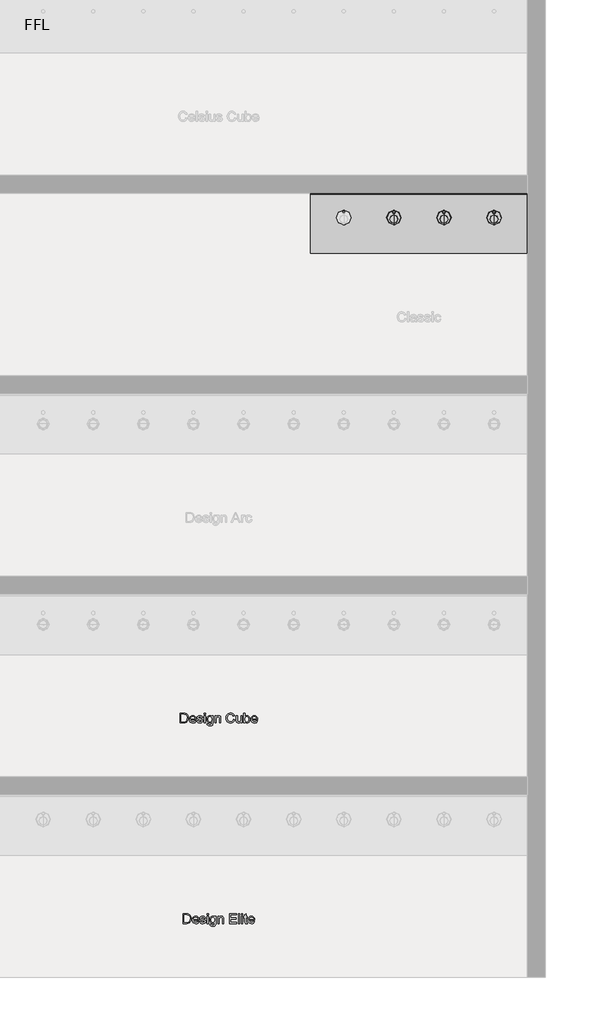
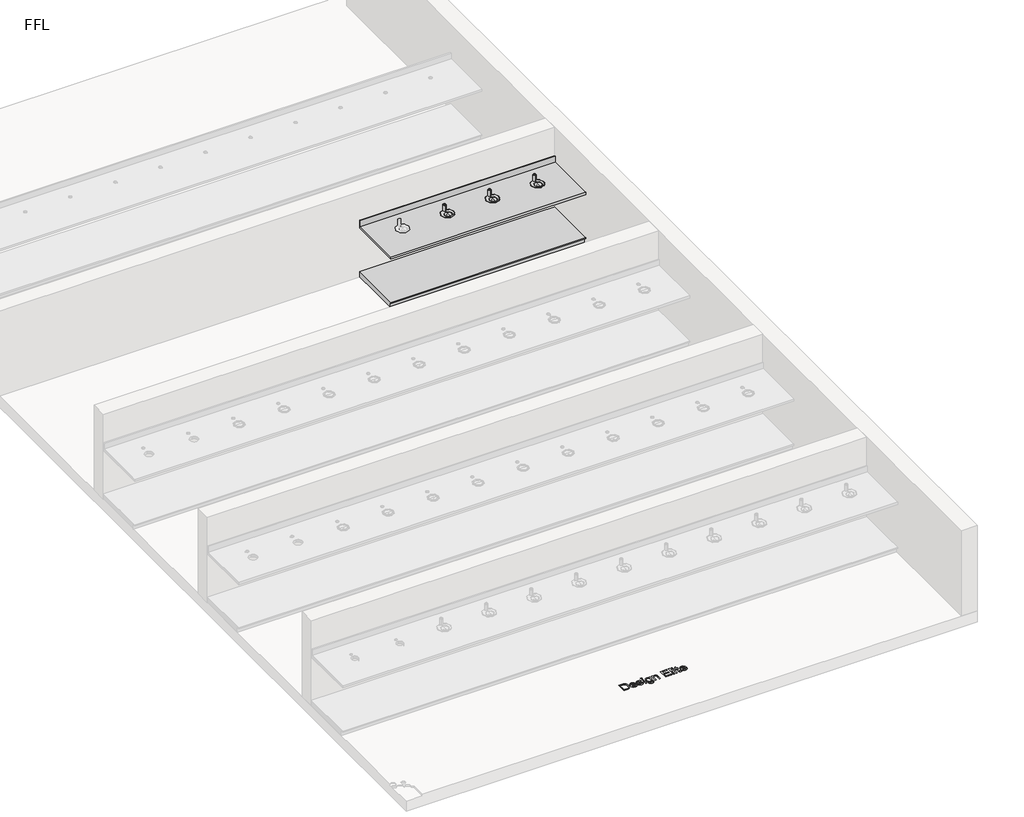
# One storey, part 5 of 6: 3 flow terminals, 2 furniture elements, 2 proxies.
"""IFC4 building model written with IfcOpenShell, lengths in millimetres."""

from ifc_helpers import new_model, si_unit, frame, origin, origin_with_axes, place, context, project, spatial, polyline, circle_curve, outline, extrude, transform, mapped, element, save
from ifc_brep_helpers import plane_surface, revolved_surface, advanced_brep
from components import bright_chrome_13082571, generic_plinth_900mm_89497062

model = new_model("IFC4")

# Units and contexts
model_context = context("Model", 3, world=origin())
ifc_project = project(units=[si_unit("LENGTHUNIT", "METRE", prefix="MILLI")], contexts=[model_context])

# Site, building, storey
site = spatial("IfcSite", under=ifc_project)
building = spatial("IfcBuilding", under=site)
storey = spatial("IfcBuildingStorey", under=building, Name="FFL", Elevation=0.0)

# Proxies
placement = place(None, origin())
element("IfcBuildingElementProxy", 1, Name="150mm Arial", ObjectType="150mm Arial", at=placement, inside=storey, context=model_context, shape_type="SweptSolid", body=[
    extrude(outline(polyline([(-2919.3501351, -75.6314289), (-2919.3501351, 72.0608788), (-2868.4006159, 72.0608788), (-2842.0424428, 69.9334749), (-2820.335712, 59.3685711), (-2810.1223707, 48.1185711), (-2802.8477313, 34.1281865), (-2798.4937649, 17.6678499), (-2797.0424428, -0.9920059), (-2800.9727313, -30.7936885), (-2811.0688851, -52.302102), (-2824.554462, -65.6975347), (-2842.2047024, -73.1073905), (-2865.9486928, -75.6314289), (-2919.3501351, -75.6314289)]), holes=[polyline([(-2900.8885967, -57.1698905), (-2868.2203274, -57.1698905), (-2844.4583082, -54.5016212), (-2830.7563851, -46.9655635), (-2819.524414, -28.630227), (-2815.5039813, -0.7035443), (-2817.4736327, 19.416648), (-2823.382587, 34.2724172), (-2832.1130558, 44.4767441), (-2842.5472505, 50.6426095), (-2868.7251351, 53.5993403), (-2900.8885967, 53.5993403), (-2900.8885967, -57.1698905)])]), origin_with_axes(), (0.0, 0.0, 1.0), 5.0),
    extrude(outline(polyline([(-2698.0280197, -43.3237366), (-2679.9270582, -45.6314289), (-2686.4489933, -59.270251), (-2696.8561447, -69.4655635), (-2710.9141375, -75.8207318), (-2728.3885967, -77.9391212), (-2750.0502553, -74.2837727), (-2766.7179236, -63.317727), (-2777.3459284, -45.7531236), (-2780.8885967, -22.302102), (-2777.3098707, 1.9376816), (-2766.5736928, 20.0656865), (-2750.1313851, 31.369773), (-2729.4342697, 35.1378018), (-2709.3816856, 31.3787874), (-2693.3585486, 20.1017441), (-2682.8522385, 2.009797), (-2679.3501351, -22.1939289), (-2679.4583082, -27.1698905), (-2762.4270582, -27.1698905), (-2759.2314452, -40.989001), (-2751.8080678, -51.1482559), (-2741.094426, -57.395251), (-2728.0280197, -59.4775828), (-2709.9270582, -55.6194097), (-2698.0280197, -43.3237366)]), holes=[polyline([(-2762.4270582, -8.708352), (-2697.8116736, -8.708352), (-2700.3086688, 1.0452538), (-2705.2035005, 8.0224172), (-2715.9667217, 14.5128018), (-2729.5063851, 16.6762634), (-2741.9507962, 14.9500014), (-2752.2407601, 9.7712153), (-2759.3937048, 1.6987994), (-2762.4270582, -8.708352)])]), origin_with_axes(), (0.0, 0.0, 1.0), 5.0),
    extrude(outline(polyline([(-2667.8116736, -43.3237366), (-2649.3501351, -41.0160443), (-2646.4384765, -48.9126789), (-2640.804462, -54.7179674), (-2621.2251351, -59.4775828), (-2602.4030197, -55.114602), (-2596.273212, -44.8742174), (-2602.4390774, -36.5809482), (-2621.4414813, -31.3165251), (-2649.241962, -22.2840732), (-2661.3753755, -11.7371982), (-2665.5039813, 3.1546288), (-2662.1866736, 16.9106384), (-2653.1361928, 27.4214557), (-2641.399414, 32.8841961), (-2625.5160005, 35.1378018), (-2603.0520582, 31.5140038), (-2588.773212, 21.7063115), (-2582.4270582, 5.1378018), (-2600.8885967, 2.8301095), (-2607.8297024, 13.0164076), (-2624.0736928, 16.6762634), (-2641.741962, 13.1786672), (-2647.0424428, 5.0296288), (-2644.8429236, -0.3429674), (-2637.9559043, -4.4174866), (-2622.054462, -8.3477751), (-2594.9571063, -17.0376789), (-2582.3729717, -26.8814289), (-2577.8116736, -42.927102), (-2583.1662409, -60.5953712), (-2598.616962, -73.4138809), (-2621.477539, -77.9391212), (-2640.0923226, -75.7576309), (-2653.6770582, -69.2131597), (-2662.7455678, -58.3778232), (-2667.8116736, -43.3237366)])), origin_with_axes(), (0.0, 0.0, 1.0), 5.0),
    extrude(outline(polyline([(-2557.0424428, 53.5993403), (-2557.0424428, 72.0608788), (-2538.5809043, 72.0608788), (-2538.5809043, 53.5993403), (-2557.0424428, 53.5993403)])), origin_with_axes(), (0.0, 0.0, 1.0), 5.0),
    extrude(outline(polyline([(-2557.0424428, -75.6314289), (-2557.0424428, 32.8301095), (-2538.5809043, 32.8301095), (-2538.5809043, -75.6314289), (-2557.0424428, -75.6314289)])), origin_with_axes(), (0.0, 0.0, 1.0), 5.0),
    extrude(outline(polyline([(-2515.5039813, -84.8621982), (-2497.0424428, -87.1698905), (-2491.0568659, -96.9054674), (-2473.1361928, -101.0160443), (-2454.241962, -96.364602), (-2445.227539, -83.3117174), (-2443.9655197, -61.7852751), (-2456.9643178, -72.1698905), (-2472.8116736, -75.6314289), (-2491.8456279, -71.6019818), (-2506.038837, -59.5136405), (-2514.8684644, -41.7912847), (-2517.8116736, -20.8597943), (-2512.5292217, 7.7519845), (-2506.0658803, 19.3670687), (-2497.2407601, 27.9983788), (-2486.3558442, 33.3529461), (-2473.7131159, 35.1378018), (-2457.2437649, 31.0993403), (-2443.9655197, 18.9839557), (-2443.9655197, 32.8301095), (-2425.5039813, 32.8301095), (-2425.5039813, -60.8117174), (-2426.7660005, -82.4328111), (-2430.5520582, -96.6710924), (-2437.0739933, -106.1137006), (-2446.5436447, -113.3477751), (-2458.7536808, -117.9451309), (-2473.4967697, -119.4775828), (-2490.6737529, -117.3186285), (-2504.1998947, -110.8417655), (-2512.8762769, -100.028965), (-2515.5039813, -84.8621982)]), holes=[polyline([(-2499.3501351, -19.5977751), (-2497.3804837, -36.5313688), (-2491.4715293, -48.1734962), (-2482.5878154, -54.9207919), (-2471.6938851, -57.1698905), (-2460.8810846, -54.9343135), (-2451.9522986, -48.2275828), (-2445.9622144, -36.7341934), (-2443.9655197, -20.1386405), (-2446.0208082, -4.1335323), (-2452.1866736, 7.3914076), (-2461.2461688, 14.3550494), (-2471.9823467, 16.6762634), (-2482.5247144, 14.3911071), (-2491.3633563, 7.5356384), (-2497.3534404, -3.8180275), (-2499.3501351, -19.5977751)])]), origin_with_axes(), (0.0, 0.0, 1.0), 5.0),
    extrude(outline(polyline([(-2397.8116736, -75.6314289), (-2397.8116736, 32.8301095), (-2379.3501351, 32.8301095), (-2379.3501351, 17.6858788), (-2365.2335486, 30.7748211), (-2345.960712, 35.1378018), (-2328.5268178, 31.6221768), (-2316.6277793, 22.3914076), (-2311.0929236, 8.8156865), (-2310.1193659, -9.0328712), (-2310.1193659, -75.6314289), (-2328.5809043, -75.6314289), (-2328.5809043, -11.520852), (-2330.7083082, 4.8132826), (-2338.226337, 13.4490999), (-2350.9006159, 16.6762634), (-2361.7134164, 14.8643643), (-2370.930664, 9.4286672), (-2377.2452673, -1.0731357), (-2379.3501351, -18.083352), (-2379.3501351, -75.6314289), (-2397.8116736, -75.6314289)])), origin_with_axes(), (0.0, 0.0, 1.0), 5.0),
    extrude(outline(polyline([(-2120.8885967, -23.1314289), (-2102.4270582, -27.8910443), (-2110.945688, -49.403965), (-2124.3140774, -65.1206116), (-2141.8741736, -74.7344938), (-2162.9679236, -77.9391212), (-2184.3816856, -75.5142414), (-2201.3873947, -68.239602), (-2214.4222505, -56.3676068), (-2223.9234524, -40.1506597), (-2229.7242337, -21.0851549), (-2231.6578274, -0.6674866), (-2229.4718298, 20.8679701), (-2222.913837, 39.4647249), (-2212.3263971, 54.5323331), (-2198.0520582, 65.4803499), (-2181.1229717, 72.1465158), (-2162.571289, 74.3685711), (-2142.3294019, 71.4929701), (-2125.5941255, 62.8661672), (-2112.8882962, 49.0200134), (-2104.7347505, 30.4863595), (-2123.196289, 26.0873211), (-2129.5965293, 39.5503619), (-2138.3405197, 48.7856384), (-2149.5364332, 54.126684), (-2163.2924428, 55.9070326), (-2179.148813, 53.932874), (-2192.1746543, 48.010398), (-2202.0589692, 38.7615999), (-2208.4907601, 26.8084749), (-2213.196289, -0.6314289), (-2207.6253755, -32.4343135), (-2200.5039813, -44.310816), (-2190.2816255, -52.7528232), (-2178.0265173, -57.7963929), (-2164.8068659, -59.4775828), (-2149.3967096, -57.1879193), (-2136.555664, -50.3189289), (-2126.8606519, -38.942727), (-2120.8885967, -23.1314289)])), origin_with_axes(), (0.0, 0.0, 1.0), 5.0),
    extrude(outline(polyline([(-2010.1193659, -75.6314289), (-2010.1193659, -56.989602), (-2024.5785005, -72.7017414), (-2043.4366736, -77.9391212), (-2060.7984524, -74.2612366), (-2072.7696063, -65.0304674), (-2078.2684043, -51.4367174), (-2079.3501351, -34.2732559), (-2079.3501351, 32.8301095), (-2060.8885967, 32.8301095), (-2060.8885967, -25.583352), (-2059.7708082, -44.4054674), (-2052.4691255, -55.4571501), (-2038.7131159, -59.4775828), (-2023.2984524, -55.3670059), (-2013.1121543, -44.1710924), (-2010.1193659, -23.6001789), (-2010.1193659, 32.8301095), (-1991.6578274, 32.8301095), (-1991.6578274, -75.6314289), (-2010.1193659, -75.6314289)])), origin_with_axes(), (0.0, 0.0, 1.0), 5.0),
    extrude(outline(polyline([(-1947.8116736, -75.6314289), (-1966.273212, -75.6314289), (-1966.273212, 72.0608788), (-1947.8116736, 72.0608788), (-1947.8116736, 17.2892441), (-1934.8849909, 30.6756624), (-1918.821289, 35.1378018), (-1900.3236928, 31.1173691), (-1885.9727313, 19.8132826), (-1877.1566255, 2.2351576), (-1873.9655197, -19.7780635), (-1877.2693058, -44.4234962), (-1887.180664, -62.7588328), (-1901.7254356, -74.1440491), (-1918.929462, -77.9391212), (-1935.3447265, -73.0442895), (-1947.8116736, -58.3597943), (-1947.8116736, -75.6314289)]), holes=[polyline([(-1947.8116736, -20.6434482), (-1946.5496543, -36.0400828), (-1942.7635967, -46.4607559), (-1933.0911207, -56.223376), (-1920.5160005, -59.4775828), (-1909.8609524, -57.0797462), (-1900.7563851, -49.8862366), (-1894.5093899, -37.942126), (-1892.4270582, -21.2924866), (-1894.4237529, -4.3994578), (-1900.413837, 7.4094365), (-1909.23445, 14.3595566), (-1919.7227313, 16.6762634), (-1930.3777793, 14.2784268), (-1939.4823467, 7.0849172), (-1945.7293418, -4.6428472), (-1947.8116736, -20.6434482)])]), origin_with_axes(), (0.0, 0.0, 1.0), 5.0),
    extrude(outline(polyline([(-1777.258789, -43.3237366), (-1759.1578274, -45.6314289), (-1765.6797625, -59.270251), (-1776.086914, -69.4655635), (-1790.1449067, -75.8207318), (-1807.6193659, -77.9391212), (-1829.2810245, -74.2837727), (-1845.9486928, -63.317727), (-1856.5766976, -45.7531236), (-1860.1193659, -22.302102), (-1856.5406399, 1.9376816), (-1845.804462, 20.0656865), (-1829.3621543, 31.369773), (-1808.665039, 35.1378018), (-1788.6124548, 31.3787874), (-1772.5893178, 20.1017441), (-1762.0830077, 2.009797), (-1758.5809043, -22.1939289), (-1758.6890774, -27.1698905), (-1841.6578274, -27.1698905), (-1838.4622144, -40.989001), (-1831.038837, -51.1482559), (-1820.3251952, -57.395251), (-1807.258789, -59.4775828), (-1789.1578274, -55.6194097), (-1777.258789, -43.3237366)]), holes=[polyline([(-1841.6578274, -8.708352), (-1777.0424428, -8.708352), (-1779.539438, 1.0452538), (-1784.4342697, 8.0224172), (-1795.1974909, 14.5128018), (-1808.7371543, 16.6762634), (-1821.1815654, 14.9500014), (-1831.4715293, 9.7712153), (-1838.6244741, 1.6987994), (-1841.6578274, -8.708352)])]), origin_with_axes(), (0.0, 0.0, 1.0), 5.0),
])
element("IfcBuildingElementProxy", 2, Name="150mm Arial", ObjectType="150mm Arial", at=placement, inside=storey, context=model_context, shape_type="SweptSolid", body=[
    extrude(outline(polyline([(-2875.5039813, -3075.6314289), (-2875.5039813, -2927.9391212), (-2824.554462, -2927.9391212), (-2798.196289, -2930.0665251), (-2776.4895582, -2940.6314289), (-2766.2762168, -2951.8814289), (-2759.0015774, -2965.8718135), (-2754.6476111, -2982.3321501), (-2753.196289, -3000.9920059), (-2757.1265774, -3030.7936885), (-2767.2227313, -3052.302102), (-2780.7083082, -3065.6975347), (-2798.3585486, -3073.1073905), (-2822.102539, -3075.6314289), (-2875.5039813, -3075.6314289)]), holes=[polyline([(-2857.0424428, -3057.1698905), (-2824.3741736, -3057.1698905), (-2800.6121543, -3054.5016212), (-2786.9102313, -3046.9655635), (-2775.6782601, -3028.630227), (-2771.6578274, -3000.7035443), (-2773.6274789, -2980.583352), (-2779.5364332, -2965.7275828), (-2788.2669019, -2955.5232559), (-2798.7010967, -2949.3573905), (-2824.8789813, -2946.4006597), (-2857.0424428, -2946.4006597), (-2857.0424428, -3057.1698905)])]), origin_with_axes(), (0.0, 0.0, 1.0), 5.0),
    extrude(outline(polyline([(-2654.1818659, -3043.3237366), (-2636.0809043, -3045.6314289), (-2642.6028394, -3059.270251), (-2653.0099909, -3069.4655635), (-2667.0679837, -3075.8207318), (-2684.5424428, -3077.9391212), (-2706.2041015, -3074.2837727), (-2722.8717697, -3063.317727), (-2733.4997745, -3045.7531236), (-2737.0424428, -3022.302102), (-2733.4637168, -2998.0623184), (-2722.727539, -2979.9343135), (-2706.2852313, -2968.630227), (-2685.5881159, -2964.8621982), (-2665.5355317, -2968.6212126), (-2649.5123947, -2979.8982559), (-2639.0060846, -2997.990203), (-2635.5039813, -3022.1939289), (-2635.6121543, -3027.1698905), (-2718.5809043, -3027.1698905), (-2715.3852914, -3040.989001), (-2707.961914, -3051.1482559), (-2697.2482721, -3057.395251), (-2684.1818659, -3059.4775828), (-2666.0809043, -3055.6194097), (-2654.1818659, -3043.3237366)]), holes=[polyline([(-2718.5809043, -3008.708352), (-2653.9655197, -3008.708352), (-2656.4625149, -2998.9547462), (-2661.3573467, -2991.9775828), (-2672.1205678, -2985.4871982), (-2685.6602313, -2983.3237366), (-2698.1046423, -2985.0499986), (-2708.3946063, -2990.2287847), (-2715.547551, -2998.3012006), (-2718.5809043, -3008.708352)])]), origin_with_axes(), (0.0, 0.0, 1.0), 5.0),
    extrude(outline(polyline([(-2623.9655197, -3043.3237366), (-2605.5039813, -3041.0160443), (-2602.5923226, -3048.9126789), (-2596.9583082, -3054.7179674), (-2577.3789813, -3059.4775828), (-2558.5568659, -3055.114602), (-2552.4270582, -3044.8742174), (-2558.5929236, -3036.5809482), (-2577.5953274, -3031.3165251), (-2605.3958082, -3022.2840732), (-2617.5292217, -3011.7371982), (-2621.6578274, -2996.8453712), (-2618.3405197, -2983.0893616), (-2609.290039, -2972.5785443), (-2597.5532601, -2967.1158039), (-2581.6698467, -2964.8621982), (-2559.2059043, -2968.4859962), (-2544.9270582, -2978.2936885), (-2538.5809043, -2994.8621982), (-2557.0424428, -2997.1698905), (-2563.9835486, -2986.9835924), (-2580.227539, -2983.3237366), (-2597.8958082, -2986.8213328), (-2603.196289, -2994.9703712), (-2600.9967697, -3000.3429674), (-2594.1097505, -3004.4174866), (-2578.2083082, -3008.3477751), (-2551.1109524, -3017.0376789), (-2538.5268178, -3026.8814289), (-2533.9655197, -3042.927102), (-2539.320087, -3060.5953712), (-2554.7708082, -3073.4138809), (-2577.6313851, -3077.9391212), (-2596.2461688, -3075.7576309), (-2609.8309043, -3069.2131597), (-2618.899414, -3058.3778232), (-2623.9655197, -3043.3237366)])), origin_with_axes(), (0.0, 0.0, 1.0), 5.0),
    extrude(outline(polyline([(-2513.196289, -2946.4006597), (-2513.196289, -2927.9391212), (-2494.7347505, -2927.9391212), (-2494.7347505, -2946.4006597), (-2513.196289, -2946.4006597)])), origin_with_axes(), (0.0, 0.0, 1.0), 5.0),
    extrude(outline(polyline([(-2513.196289, -3075.6314289), (-2513.196289, -2967.1698905), (-2494.7347505, -2967.1698905), (-2494.7347505, -3075.6314289), (-2513.196289, -3075.6314289)])), origin_with_axes(), (0.0, 0.0, 1.0), 5.0),
    extrude(outline(polyline([(-2471.6578274, -3084.8621982), (-2453.196289, -3087.1698905), (-2447.210712, -3096.9054674), (-2429.290039, -3101.0160443), (-2410.3958082, -3096.364602), (-2401.3813851, -3083.3117174), (-2400.1193659, -3061.7852751), (-2413.118164, -3072.1698905), (-2428.9655197, -3075.6314289), (-2447.9994741, -3071.6019818), (-2462.1926832, -3059.5136405), (-2471.0223106, -3041.7912847), (-2473.9655197, -3020.8597943), (-2468.6830678, -2992.2480155), (-2462.2197265, -2980.6329313), (-2453.3946063, -2972.0016212), (-2442.5096904, -2966.6470539), (-2429.866962, -2964.8621982), (-2413.3976111, -2968.9006597), (-2400.1193659, -2981.0160443), (-2400.1193659, -2967.1698905), (-2381.6578274, -2967.1698905), (-2381.6578274, -3060.8117174), (-2382.9198467, -3082.4328111), (-2386.7059043, -3096.6710924), (-2393.2278394, -3106.1137006), (-2402.6974909, -3113.3477751), (-2414.9075269, -3117.9451309), (-2429.6506159, -3119.4775828), (-2446.8275991, -3117.3186285), (-2460.3537409, -3110.8417655), (-2469.0301231, -3100.028965), (-2471.6578274, -3084.8621982)]), holes=[polyline([(-2455.5039813, -3019.5977751), (-2453.5343298, -3036.5313688), (-2447.6253755, -3048.1734962), (-2438.7416616, -3054.9207919), (-2427.8477313, -3057.1698905), (-2417.0349308, -3054.9343135), (-2408.1061447, -3048.2275828), (-2402.1160606, -3036.7341934), (-2400.1193659, -3020.1386405), (-2402.1746543, -3004.1335323), (-2408.3405197, -2992.6085924), (-2417.4000149, -2985.6449506), (-2428.1361928, -2983.3237366), (-2438.6785606, -2985.6088929), (-2447.5172024, -2992.4643616), (-2453.5072866, -3003.8180275), (-2455.5039813, -3019.5977751)])]), origin_with_axes(), (0.0, 0.0, 1.0), 5.0),
    extrude(outline(polyline([(-2353.9655197, -3075.6314289), (-2353.9655197, -2967.1698905), (-2335.5039813, -2967.1698905), (-2335.5039813, -2982.3141212), (-2321.3873947, -2969.2251789), (-2302.1145582, -2964.8621982), (-2284.680664, -2968.3778232), (-2272.7816255, -2977.6085924), (-2267.2467697, -2991.1843135), (-2266.273212, -3009.0328712), (-2266.273212, -3075.6314289), (-2284.7347505, -3075.6314289), (-2284.7347505, -3011.520852), (-2286.8621543, -2995.1867174), (-2294.3801832, -2986.5509001), (-2307.054462, -2983.3237366), (-2317.8672625, -2985.1356357), (-2327.0845101, -2990.5713328), (-2333.3991135, -3001.0731357), (-2335.5039813, -3018.083352), (-2335.5039813, -3075.6314289), (-2353.9655197, -3075.6314289)])), origin_with_axes(), (0.0, 0.0, 1.0), 5.0),
    extrude(outline(polyline([(-2180.8885967, -3075.6314289), (-2180.8885967, -2927.9391212), (-2074.7347505, -2927.9391212), (-2074.7347505, -2946.4006597), (-2162.4270582, -2946.4006597), (-2162.4270582, -2990.2468135), (-2079.3501351, -2990.2468135), (-2079.3501351, -3008.708352), (-2162.4270582, -3008.708352), (-2162.4270582, -3057.1698905), (-2072.4270582, -3057.1698905), (-2072.4270582, -3075.6314289), (-2180.8885967, -3075.6314289)])), origin_with_axes(), (0.0, 0.0, 1.0), 5.0),
    extrude(outline(polyline([(-2047.0424428, -3075.6314289), (-2047.0424428, -2927.9391212), (-2028.5809043, -2927.9391212), (-2028.5809043, -3075.6314289), (-2047.0424428, -3075.6314289)])), origin_with_axes(), (0.0, 0.0, 1.0), 5.0),
    extrude(outline(polyline([(-2000.8885967, -3075.6314289), (-2000.8885967, -2967.1698905), (-1982.4270582, -2967.1698905), (-1982.4270582, -3075.6314289), (-2000.8885967, -3075.6314289)])), origin_with_axes(), (0.0, 0.0, 1.0), 5.0),
    extrude(outline(polyline([(-2000.8885967, -2946.4006597), (-2000.8885967, -2927.9391212), (-1982.4270582, -2927.9391212), (-1982.4270582, -2946.4006597), (-2000.8885967, -2946.4006597)])), origin_with_axes(), (0.0, 0.0, 1.0), 5.0),
    extrude(outline(polyline([(-1915.5039813, -3060.2347943), (-1913.196289, -3076.1722943), (-1927.0063851, -3077.9391212), (-1942.4751351, -3074.8742174), (-1950.1914813, -3066.833352), (-1952.4270582, -3045.8838328), (-1952.4270582, -2985.6314289), (-1966.273212, -2985.6314289), (-1966.273212, -2967.1698905), (-1952.4270582, -2967.1698905), (-1952.4270582, -2940.8117174), (-1933.9655197, -2929.958352), (-1933.9655197, -2967.1698905), (-1915.5039813, -2967.1698905), (-1915.5039813, -2985.6314289), (-1933.9655197, -2985.6314289), (-1933.9655197, -3045.3429674), (-1932.991962, -3054.8621982), (-1929.836914, -3058.2335924), (-1923.5448467, -3059.4775828), (-1915.5039813, -3060.2347943)])), origin_with_axes(), (0.0, 0.0, 1.0), 5.0),
    extrude(outline(polyline([(-1821.1049428, -3043.3237366), (-1803.0039813, -3045.6314289), (-1809.5259164, -3059.270251), (-1819.9330678, -3069.4655635), (-1833.9910606, -3075.8207318), (-1851.4655197, -3077.9391212), (-1873.1271784, -3074.2837727), (-1889.7948467, -3063.317727), (-1900.4228515, -3045.7531236), (-1903.9655197, -3022.302102), (-1900.3867938, -2998.0623184), (-1889.6506159, -2979.9343135), (-1873.2083082, -2968.630227), (-1852.5111928, -2964.8621982), (-1832.4586087, -2968.6212126), (-1816.4354717, -2979.8982559), (-1805.9291616, -2997.990203), (-1802.4270582, -3022.1939289), (-1802.5352313, -3027.1698905), (-1885.5039813, -3027.1698905), (-1882.3083683, -3040.989001), (-1874.8849909, -3051.1482559), (-1864.1713491, -3057.395251), (-1851.1049428, -3059.4775828), (-1833.0039813, -3055.6194097), (-1821.1049428, -3043.3237366)]), holes=[polyline([(-1885.5039813, -3008.708352), (-1820.8885967, -3008.708352), (-1823.3855918, -2998.9547462), (-1828.2804236, -2991.9775828), (-1839.0436447, -2985.4871982), (-1852.5833082, -2983.3237366), (-1865.0277192, -2985.0499986), (-1875.3176832, -2990.2287847), (-1882.4706279, -2998.3012006), (-1885.5039813, -3008.708352)])]), origin_with_axes(), (0.0, 0.0, 1.0), 5.0),
])

# Flow terminals
bright_chrome_shape = bright_chrome_13082571(model_context)
element("IfcFlowTerminal", 3, ObjectType="z_PlumFixt_Zip Australia_Font and Tap Riser : Brushed Chrome", at=placement, inside=storey, context=model_context, shape_type="MappedRepresentation", body=[
    mapped(bright_chrome_shape, transform((279.2647071, 7467.9893304, 900.0), x_axis=(1.0, 0.0, 0.0), y_axis=(0.0, 1.0, 0.0), z_axis=(0.0, 0.0, 1.0))),
])
element("IfcFlowTerminal", 4, ObjectType="z_PlumFixt_Zip Australia_Font and Tap Riser : Gloss Black", at=placement, inside=storey, context=model_context, shape_type="MappedRepresentation", body=[
    mapped(bright_chrome_shape, transform((1029.2647071, 7467.9893304, 900.0), x_axis=(1.0, 0.0, 0.0), y_axis=(0.0, 1.0, 0.0), z_axis=(0.0, 0.0, 1.0))),
])
element("IfcFlowTerminal", 5, ObjectType="z_PlumFixt_Zip Australia_Font and Tap Riser : Matte Black", at=placement, inside=storey, context=model_context, shape_type="MappedRepresentation", body=[
    mapped(bright_chrome_shape, transform((1779.2647071, 7467.9893304, 900.0), x_axis=(1.0, 0.0, 0.0), y_axis=(0.0, 1.0, 0.0), z_axis=(0.0, 0.0, 1.0))),
])

# Furniture
element("IfcFurniture", 6, ObjectType="Counter Top : 900mm Depth", at=placement, inside=storey, context=model_context, shape_type="AdvancedBrep", body=[
    advanced_brep(
    [(-969.7352929, 6948.2393304, 900.0), (2280.2657919, 6948.2393304, 900.0), (2280.2657919, 7829.1893304, 900.0), (-969.7352929, 7829.1893304, 900.0), (1780.2647646, 7407.6212903, 900.0), (1780.2647646, 7515.6212903, 900.0), (1780.2647646, 7550.7393304, 900.0), (1780.2647646, 7585.7393304, 900.0), (1030.2647646, 7407.6212903, 900.0), (1030.2647646, 7515.6212903, 900.0), (1030.2647646, 7550.7393304, 900.0), (1030.2647646, 7585.7393304, 900.0), (280.2647646, 7550.7393304, 900.0), (280.2647646, 7585.7393304, 900.0), (-469.7352354, 7407.6212903, 900.0), (-469.7352354, 7515.6212903, 900.0), (-469.7352354, 7550.7393304, 900.0), (-469.7352354, 7585.7393304, 900.0), (280.2647646, 7407.6212903, 900.0), (280.2647646, 7515.6212903, 900.0), (2280.2657919, 7848.2393304, 860.0), (2280.2657919, 6948.2393304, 860.0), (-969.7352929, 6948.2393304, 860.0), (-969.7352929, 7848.2393304, 860.0), (1780.2647646, 7515.6212903, 860.0), (1780.2647646, 7407.6212903, 860.0), (1780.2647646, 7585.7393304, 860.0), (1780.2647646, 7550.7393304, 860.0), (1030.2647646, 7515.6212903, 860.0), (1030.2647646, 7407.6212903, 860.0), (1030.2647646, 7585.7393304, 860.0), (1030.2647646, 7550.7393304, 860.0), (280.2647646, 7585.7393304, 860.0), (280.2647646, 7550.7393304, 860.0), (-469.7352354, 7515.6212903, 860.0), (-469.7352354, 7407.6212903, 860.0), (-469.7352354, 7585.7393304, 860.0), (-469.7352354, 7550.7393304, 860.0), (280.2647646, 7515.6212903, 860.0), (280.2647646, 7407.6212903, 860.0), (-969.7352929, 7848.2393304, 1001.6), (2280.2657919, 7848.2393304, 1001.6), (-969.7352929, 7829.1893304, 1001.6), (2280.2657919, 7829.1893304, 1001.6)],
    [
        (0, 1),
        (1, 2),
        (2, 3),
        (3, 0),
        (4, 5, circle_curve(frame((1780.2647646, 7461.6212903, 900.0), z_axis=(0.0, 0.0, -1.0), x_axis=(0.0, -1.0, 0.0)), 54.0)),
        (5, 4, circle_curve(frame((1780.2647646, 7461.6212903, 900.0), z_axis=(0.0, 0.0, -1.0), x_axis=(0.0, -1.0, 0.0)), 54.0)),
        (6, 7, circle_curve(frame((1780.2647646, 7568.2393304, 900.0), z_axis=(0.0, 0.0, -1.0), x_axis=(0.0, -1.0, 0.0)), 17.5)),
        (7, 6, circle_curve(frame((1780.2647646, 7568.2393304, 900.0), z_axis=(0.0, 0.0, -1.0), x_axis=(0.0, -1.0, 0.0)), 17.5)),
        (8, 9, circle_curve(frame((1030.2647646, 7461.6212903, 900.0), z_axis=(0.0, 0.0, -1.0), x_axis=(0.0, -1.0, 0.0)), 54.0)),
        (9, 8, circle_curve(frame((1030.2647646, 7461.6212903, 900.0), z_axis=(0.0, 0.0, -1.0), x_axis=(0.0, -1.0, 0.0)), 54.0)),
        (10, 11, circle_curve(frame((1030.2647646, 7568.2393304, 900.0), z_axis=(0.0, 0.0, -1.0), x_axis=(0.0, -1.0, 0.0)), 17.5)),
        (11, 10, circle_curve(frame((1030.2647646, 7568.2393304, 900.0), z_axis=(0.0, 0.0, -1.0), x_axis=(0.0, -1.0, 0.0)), 17.5)),
        (12, 13, circle_curve(frame((280.2647646, 7568.2393304, 900.0), z_axis=(0.0, 0.0, -1.0), x_axis=(0.0, -1.0, 0.0)), 17.5)),
        (13, 12, circle_curve(frame((280.2647646, 7568.2393304, 900.0), z_axis=(0.0, 0.0, -1.0), x_axis=(0.0, -1.0, 0.0)), 17.5)),
        (14, 15, circle_curve(frame((-469.7352354, 7461.6212903, 900.0), z_axis=(0.0, 0.0, -1.0), x_axis=(0.0, -1.0, 0.0)), 54.0)),
        (15, 14, circle_curve(frame((-469.7352354, 7461.6212903, 900.0), z_axis=(0.0, 0.0, -1.0), x_axis=(0.0, -1.0, 0.0)), 54.0)),
        (16, 17, circle_curve(frame((-469.7352354, 7568.2393304, 900.0), z_axis=(0.0, 0.0, -1.0), x_axis=(0.0, -1.0, 0.0)), 17.5)),
        (17, 16, circle_curve(frame((-469.7352354, 7568.2393304, 900.0), z_axis=(0.0, 0.0, -1.0), x_axis=(0.0, -1.0, 0.0)), 17.5)),
        (18, 19, circle_curve(frame((280.2647646, 7461.6212903, 900.0), z_axis=(0.0, 0.0, -1.0), x_axis=(0.0, -1.0, 0.0)), 54.0)),
        (19, 18, circle_curve(frame((280.2647646, 7461.6212903, 900.0), z_axis=(0.0, 0.0, -1.0), x_axis=(0.0, -1.0, 0.0)), 54.0)),
        (20, 21),
        (21, 22),
        (22, 23),
        (23, 20),
        (24, 25, circle_curve(frame((1780.2647646, 7461.6212903, 860.0), z_axis=(0.0, 0.0, 1.0), x_axis=(0.0, -1.0, 0.0)), 54.0)),
        (25, 24, circle_curve(frame((1780.2647646, 7461.6212903, 860.0), z_axis=(0.0, 0.0, 1.0), x_axis=(0.0, -1.0, 0.0)), 54.0)),
        (26, 27, circle_curve(frame((1780.2647646, 7568.2393304, 860.0), z_axis=(0.0, 0.0, 1.0), x_axis=(0.0, -1.0, 0.0)), 17.5)),
        (27, 26, circle_curve(frame((1780.2647646, 7568.2393304, 860.0), z_axis=(0.0, 0.0, 1.0), x_axis=(0.0, -1.0, 0.0)), 17.5)),
        (28, 29, circle_curve(frame((1030.2647646, 7461.6212903, 860.0), z_axis=(0.0, 0.0, 1.0), x_axis=(0.0, -1.0, 0.0)), 54.0)),
        (29, 28, circle_curve(frame((1030.2647646, 7461.6212903, 860.0), z_axis=(0.0, 0.0, 1.0), x_axis=(0.0, -1.0, 0.0)), 54.0)),
        (30, 31, circle_curve(frame((1030.2647646, 7568.2393304, 860.0), z_axis=(0.0, 0.0, 1.0), x_axis=(0.0, -1.0, 0.0)), 17.5)),
        (31, 30, circle_curve(frame((1030.2647646, 7568.2393304, 860.0), z_axis=(0.0, 0.0, 1.0), x_axis=(0.0, -1.0, 0.0)), 17.5)),
        (32, 33, circle_curve(frame((280.2647646, 7568.2393304, 860.0), z_axis=(0.0, 0.0, 1.0), x_axis=(0.0, -1.0, 0.0)), 17.5)),
        (33, 32, circle_curve(frame((280.2647646, 7568.2393304, 860.0), z_axis=(0.0, 0.0, 1.0), x_axis=(0.0, -1.0, 0.0)), 17.5)),
        (34, 35, circle_curve(frame((-469.7352354, 7461.6212903, 860.0), z_axis=(0.0, 0.0, 1.0), x_axis=(0.0, -1.0, 0.0)), 54.0)),
        (35, 34, circle_curve(frame((-469.7352354, 7461.6212903, 860.0), z_axis=(0.0, 0.0, 1.0), x_axis=(0.0, -1.0, 0.0)), 54.0)),
        (36, 37, circle_curve(frame((-469.7352354, 7568.2393304, 860.0), z_axis=(0.0, 0.0, 1.0), x_axis=(0.0, -1.0, 0.0)), 17.5)),
        (37, 36, circle_curve(frame((-469.7352354, 7568.2393304, 860.0), z_axis=(0.0, 0.0, 1.0), x_axis=(0.0, -1.0, 0.0)), 17.5)),
        (38, 39, circle_curve(frame((280.2647646, 7461.6212903, 860.0), z_axis=(0.0, 0.0, 1.0), x_axis=(0.0, -1.0, 0.0)), 54.0)),
        (39, 38, circle_curve(frame((280.2647646, 7461.6212903, 860.0), z_axis=(0.0, 0.0, 1.0), x_axis=(0.0, -1.0, 0.0)), 54.0)),
        (23, 40),
        (40, 41),
        (41, 20),
        (3, 42),
        (42, 40),
        (22, 0),
        (21, 1),
        (41, 43),
        (43, 2),
        (42, 43),
        (24, 5),
        (4, 25),
        (26, 7),
        (6, 27),
        (28, 9),
        (8, 29),
        (30, 11),
        (10, 31),
        (38, 19),
        (18, 39),
        (32, 13),
        (12, 33),
        (34, 15),
        (14, 35),
        (36, 17),
        (16, 37),
    ],
    [
        plane_surface(frame((-969.7352929, 7848.2393304, 900.0), z_axis=(0.0, 0.0, 1.0), x_axis=(-1.0, 0.0, 0.0))),
        plane_surface(frame((-969.7352929, 7848.2393304, 860.0), z_axis=(0.0, 0.0, -1.0), x_axis=(1.0, 0.0, 0.0))),
        plane_surface(frame((2280.2657919, 7848.2393304, 900.0), z_axis=(0.0, 1.0, 0.0), x_axis=(0.0, 0.0, -1.0))),
        plane_surface(frame((-969.7352929, 7848.2393304, 900.0), z_axis=(-1.0, 0.0, 0.0), x_axis=(0.0, 0.0, -1.0))),
        plane_surface(frame((-969.7352929, 6948.2393304, 900.0), z_axis=(0.0, -1.0, 0.0), x_axis=(0.0, 0.0, -1.0))),
        plane_surface(frame((2280.2657919, 6948.2393304, 900.0), z_axis=(1.0, 0.0, 0.0), x_axis=(0.0, 0.0, -1.0))),
        plane_surface(frame((-969.7352929, 7848.2393304, 1001.6), z_axis=(0.0, 0.0, 1.0), x_axis=(0.0, -1.0, 0.0))),
        plane_surface(frame((-969.7352929, 7829.1893304, 1001.6), z_axis=(0.0, -1.0, 0.0), x_axis=(0.0, 0.0, -1.0))),
        revolved_surface(polyline([(1780.2647646, 7407.6212903, 900.0), (1780.2647646, 7407.6212903, 860.0)]), (1780.2647646, 7461.6212903, 700.0), (0.0, 0.0, 1.0)),
        revolved_surface(polyline([(1780.2647646, 7550.7393304, 900.0), (1780.2647646, 7550.7393304, 860.0)]), (1780.2647646, 7568.2393304, 700.0), (0.0, 0.0, 1.0)),
        revolved_surface(polyline([(1030.2647646, 7407.6212903, 900.0), (1030.2647646, 7407.6212903, 860.0)]), (1030.2647646, 7461.6212903, 700.0), (0.0, 0.0, 1.0)),
        revolved_surface(polyline([(1030.2647646, 7550.7393304, 900.0), (1030.2647646, 7550.7393304, 860.0)]), (1030.2647646, 7568.2393304, 700.0), (0.0, 0.0, 1.0)),
        revolved_surface(polyline([(280.2647646, 7407.6212903, 900.0), (280.2647646, 7407.6212903, 860.0)]), (280.2647646, 7461.6212903, 700.0), (0.0, 0.0, 1.0)),
        revolved_surface(polyline([(280.2647646, 7550.7393304, 900.0), (280.2647646, 7550.7393304, 860.0)]), (280.2647646, 7568.2393304, 700.0), (0.0, 0.0, 1.0)),
        revolved_surface(polyline([(-469.7352354, 7407.6212903, 900.0), (-469.7352354, 7407.6212903, 860.0)]), (-469.7352354, 7461.6212903, 700.0), (0.0, 0.0, 1.0)),
        revolved_surface(polyline([(-469.7352354, 7550.7393304, 900.0), (-469.7352354, 7550.7393304, 860.0)]), (-469.7352354, 7568.2393304, 700.0), (0.0, 0.0, 1.0)),
    ],
    [
        (0, [[1, 2, 3, 4], [5, 6], [7, 8], [9, 10], [11, 12], [13, 14], [15, 16], [17, 18], [19, 20]]),
        (1, [[21, 22, 23, 24], [25, 26], [27, 28], [29, 30], [31, 32], [33, 34], [35, 36], [37, 38], [39, 40]]),
        (2, [[-24, 41, 42, 43]]),
        (3, [[-4, 44, 45, -41, -23, 46]]),
        (4, [[-1, -46, -22, 47]]),
        (5, [[-2, -47, -21, -43, 48, 49]]),
        (6, [[-42, -45, 50, -48]]),
        (7, [[-3, -49, -50, -44]]),
        (8, [[51, -5, 52, -25]]),
        (8, [[-51, -26, -52, -6]]),
        (9, [[53, -7, 54, -27]]),
        (9, [[-53, -28, -54, -8]]),
        (10, [[55, -9, 56, -29]]),
        (10, [[-55, -30, -56, -10]]),
        (11, [[57, -11, 58, -31]]),
        (11, [[-57, -32, -58, -12]]),
        (12, [[59, -19, 60, -39]]),
        (12, [[-59, -40, -60, -20]]),
        (13, [[61, -13, 62, -33]]),
        (13, [[-61, -34, -62, -14]]),
        (14, [[63, -15, 64, -35]]),
        (14, [[-63, -36, -64, -16]]),
        (15, [[65, -17, 66, -37]]),
        (15, [[-65, -38, -66, -18]]),
    ],
),
])
generic_plinth_900mm_shape = generic_plinth_900mm_89497062(model_context)
element("IfcFurniture", 7, ObjectType="Generic Plinth : 900mm", at=placement, inside=storey, context=model_context, shape_type="MappedRepresentation", body=[
    mapped(generic_plinth_900mm_shape, transform((636.5275446, 7848.2393304, 0.0), x_axis=(1.0, 0.0, 0.0), y_axis=(0.0, 1.0, 0.0), z_axis=(0.0, 0.0, 1.0))),
])

save(model, "model.ifc")
